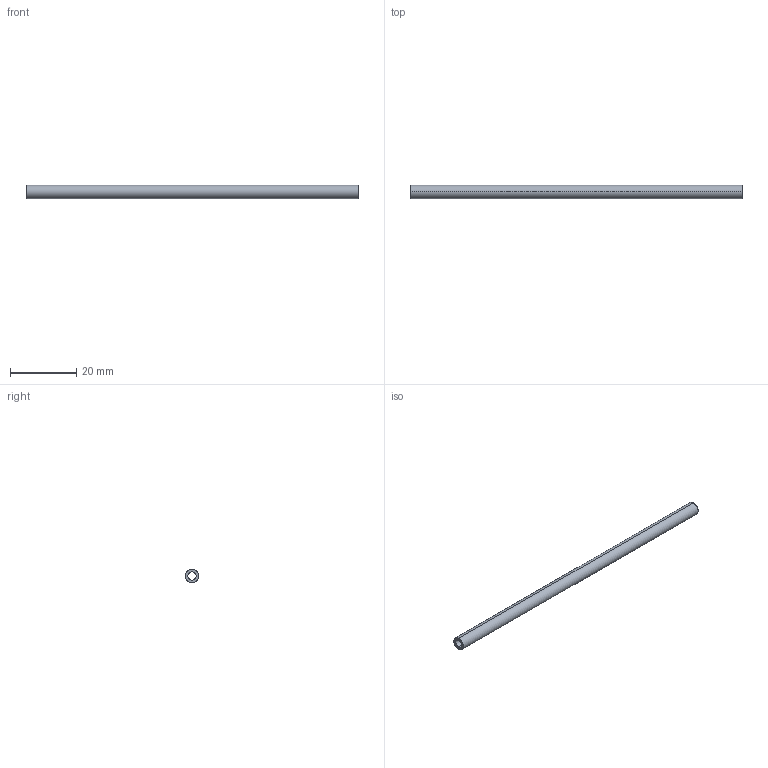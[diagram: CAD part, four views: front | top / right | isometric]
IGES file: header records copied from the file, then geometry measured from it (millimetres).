
Start section: SolidWorks IGES file using analytic representation for surfaces
Global section: file name: C:\Users\Toshiba\Desktop\100P-4-2.5.IGS; native system: SolidWorks 2014; preprocessor: SolidWorks 2014; author: Toshiba; date: 160308.163356; units: millimetre
Bounding box: 100 x 4 x 4 mm (x, y, z)
Surface area: 2057.4 mm2 (no closed solid volume)
Topology: 0 solids, 0 shells, 6 faces, 144 edges, 144 vertices
Faces by surface type: revolution 4, bspline 2
